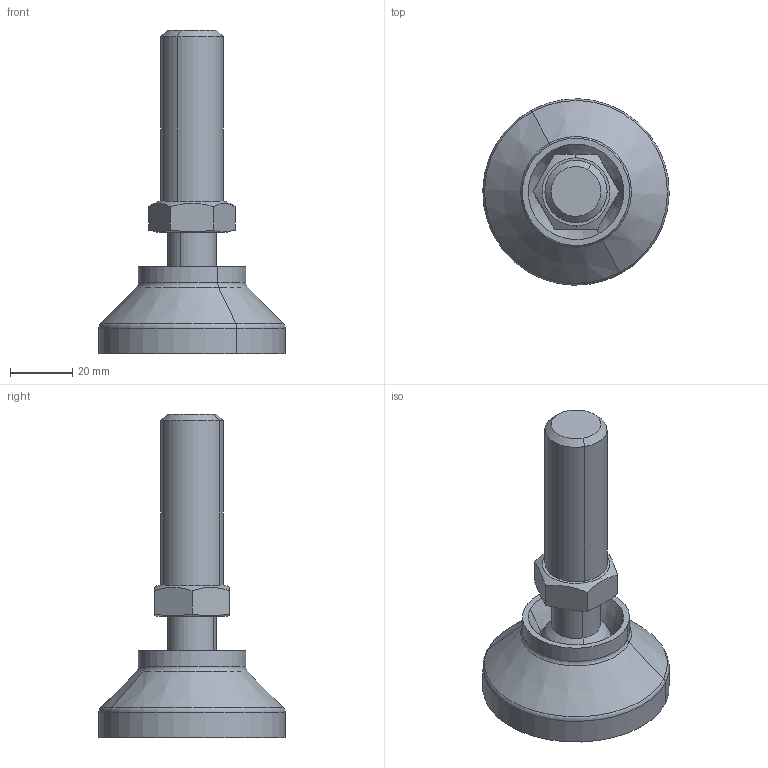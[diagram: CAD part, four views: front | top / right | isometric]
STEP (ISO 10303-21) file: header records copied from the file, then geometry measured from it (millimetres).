
FILE_DESCRIPTION(('CATIA V5 STEP Exchange'),'2;1');
FILE_NAME('C:\Users\ALI OZGUN\Desktop\alhan\ARTICULATED_FEET-PABUCLAR\501602610.stp','2017-09-21T11:54:01+00:00',('none'),('none'),'CATIA Version 5 Release 21 GA (IN-10)','CATIA V5 STEP AP203','none');
FILE_SCHEMA(('CONFIG_CONTROL_DESIGN'));
Length unit declared in the file: millimetre
Products named in the file (1): 501602610
Bounding box: 59.98 x 59.98 x 104 mm (x, y, z)
Volume: 59692.8 mm3; surface area: 21077.9 mm2
Topology: 2 solids, 2 shells, 96 faces, 264 edges, 176 vertices
Faces by surface type: plane 44, cylinder 22, cone 20, sphere 6, torus 4
Entity records: 3114 total; most frequent: CARTESIAN_POINT 983, ORIENTED_EDGE 520, DIRECTION 280, EDGE_CURVE 260, VERTEX_POINT 176, AXIS2_PLACEMENT_3D 147, EDGE_LOOP 104, CIRCLE 100
